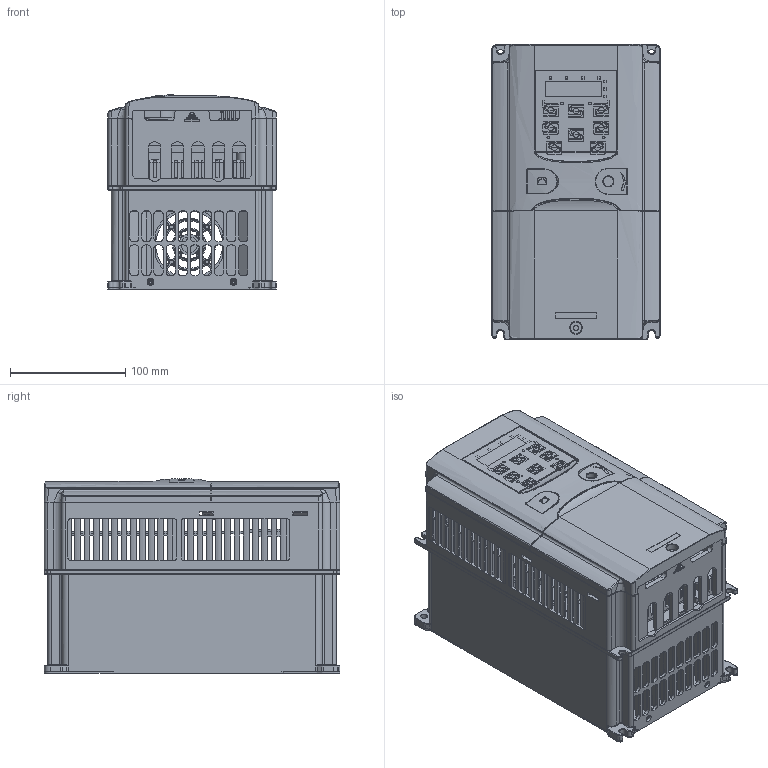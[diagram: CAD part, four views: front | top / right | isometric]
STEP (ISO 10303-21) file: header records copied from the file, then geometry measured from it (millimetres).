
FILE_DESCRIPTION((''),'2;1');
FILE_NAME('00_GD200_5R5_ASM','2017-03-14T',('Administrator'),(''),'PRO/ENGINEER BY PARAMETRIC TECHNOLOGY CORPORATION, 2010100','PRO/ENGINEER BY PARAMETRIC TECHNOLOGY CORPORATION, 2010100','');
FILE_SCHEMA(('CONFIG_CONTROL_DESIGN'));
Products named in the file (13): 80740121; 86400026; 86400027; 80740119; 61060440_ASM; 80740096; 80880096; 80740040; 80310231; 80740041; 80740122; GD200_FILM; 00_GD200_5R5_ASM
Assembly tree (12 placements, depth 3):
  00_GD200_5R5_ASM
    61060440_ASM
      80740121
      86400026
      86400027
      80740119
    80740096
    80880096
    80740040
    80310231
    80740041
    80740122
    GD200_FILM
Bounding box: 146 x 256 x 168.82 mm (x, y, z)
Volume: 639578.5 mm3; surface area: 607332.7 mm2
Topology: 11 solids, 11 shells, 5103 faces, 14761 edges, 9431 vertices
Faces by surface type: plane 3063, cylinder 1393, bspline 284, torus 230, cone 79, extrusion 34, sphere 20
Entity records: 193470 total; most frequent: CARTESIAN_POINT 59166, ORIENTED_EDGE 29382, DIRECTION 26549, EDGE_CURVE 14691, VECTOR 10529, LINE 10495, VERTEX_POINT 9431, AXIS2_PLACEMENT_3D 8010
